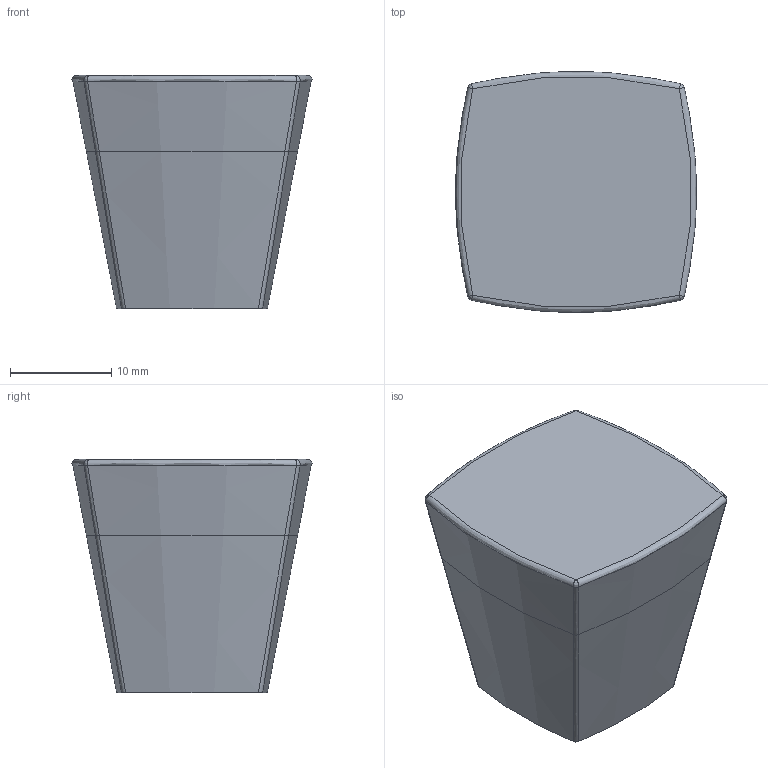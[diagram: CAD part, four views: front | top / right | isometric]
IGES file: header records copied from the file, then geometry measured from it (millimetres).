
Start section: C
Global section: file name: 8194-24.igs; native system: By Siemens PLM Incorporated; preprocessor: XPlus GENERIC/IGES 16.0.42; author: Author; organization: Title; date: 20231116.113734; units: millimetre
Bounding box: 23.68 x 23.68 x 23 mm (x, y, z)
Surface area: 4598 mm2 (no closed solid volume)
Topology: 0 solids, 0 shells, 54 faces, 318 edges, 314 vertices
Faces by surface type: bspline 54
